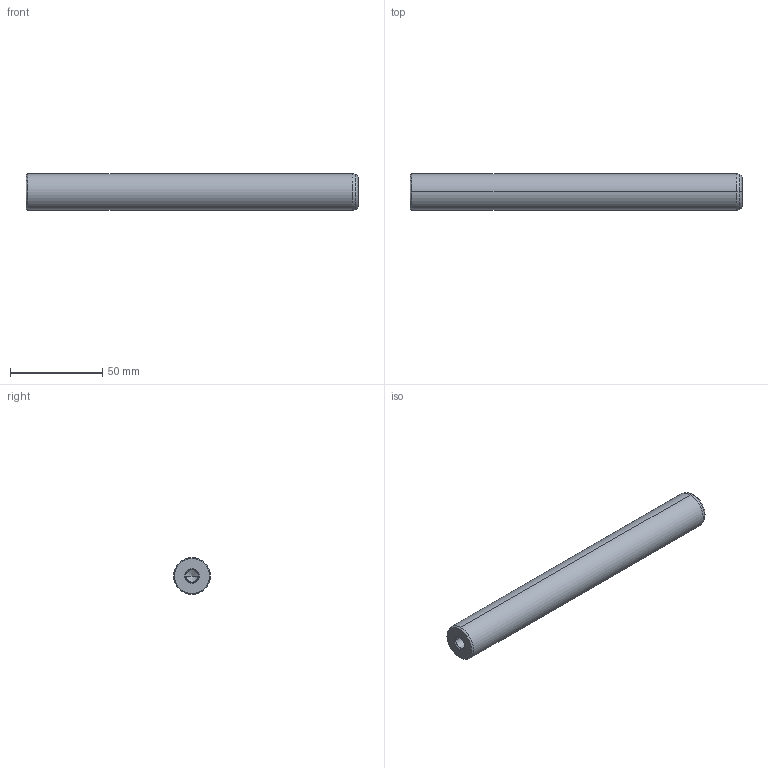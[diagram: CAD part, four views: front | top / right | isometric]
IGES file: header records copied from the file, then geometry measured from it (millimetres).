
Start section: START RECORD GO HERE.
Global section: file name: 720-20x180.igs; native system: DASSAULT SYSTEMES CATIA V5 R20 - www.3ds.com; preprocessor: CATIA Version 5 Release 20 ; author: Utente; organization: NB04-ASUS; date: 20210101.135854; units: millimetre
Bounding box: 180 x 20 x 20 mm (x, y, z)
Surface area: 12831.3 mm2 (no closed solid volume)
Topology: 0 solids, 0 shells, 22 faces, 108 edges, 104 vertices
Faces by surface type: revolution 20, plane 2
